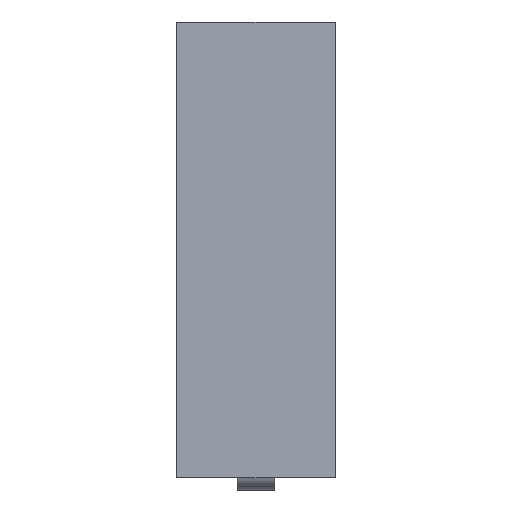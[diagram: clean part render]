
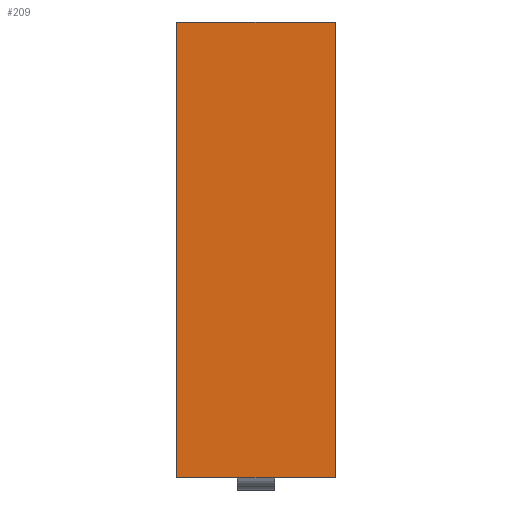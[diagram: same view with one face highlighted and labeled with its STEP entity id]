
A CAD part, left-side view. The second image highlights one B-rep face of the part: STEP entity #209.
In plain terms, the highlighted planar face has unit normal (-1, 0, 0).
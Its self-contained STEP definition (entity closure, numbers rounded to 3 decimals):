
#77 = EDGE_CURVE('',#78,#80,#82,.T.);
#78 = VERTEX_POINT('',#79);
#79 = CARTESIAN_POINT('',(-1.25,1.27,7.5));
#80 = VERTEX_POINT('',#81);
#81 = CARTESIAN_POINT('',(-1.25,-1.27,7.5));
#82 = LINE('',#83,#84);
#83 = CARTESIAN_POINT('',(-1.25,1.27,7.5));
#84 = VECTOR('',#85,1.);
#85 = DIRECTION('',(0.,-1.,0.));
#209 = ADVANCED_FACE('',(#210),#235,.F.);
#210 = FACE_BOUND('',#211,.F.);
#211 = EDGE_LOOP('',(#212,#220,#221,#229));
#212 = ORIENTED_EDGE('',*,*,#213,.T.);
#213 = EDGE_CURVE('',#214,#78,#216,.T.);
#214 = VERTEX_POINT('',#215);
#215 = CARTESIAN_POINT('',(-1.25,1.27,0.2));
#216 = LINE('',#217,#218);
#217 = CARTESIAN_POINT('',(-1.25,1.27,0.2));
#218 = VECTOR('',#219,1.);
#219 = DIRECTION('',(0.,0.,1.));
#220 = ORIENTED_EDGE('',*,*,#77,.T.);
#221 = ORIENTED_EDGE('',*,*,#222,.F.);
#222 = EDGE_CURVE('',#223,#80,#225,.T.);
#223 = VERTEX_POINT('',#224);
#224 = CARTESIAN_POINT('',(-1.25,-1.27,0.2));
#225 = LINE('',#226,#227);
#226 = CARTESIAN_POINT('',(-1.25,-1.27,0.2));
#227 = VECTOR('',#228,1.);
#228 = DIRECTION('',(0.,0.,1.));
#229 = ORIENTED_EDGE('',*,*,#230,.F.);
#230 = EDGE_CURVE('',#214,#223,#231,.T.);
#231 = LINE('',#232,#233);
#232 = CARTESIAN_POINT('',(-1.25,1.27,0.2));
#233 = VECTOR('',#234,1.);
#234 = DIRECTION('',(0.,-1.,0.));
#235 = PLANE('',#236);
#236 = AXIS2_PLACEMENT_3D('',#237,#238,#239);
#237 = CARTESIAN_POINT('',(-1.25,1.27,0.2));
#238 = DIRECTION('',(1.,0.,0.));
#239 = DIRECTION('',(0.,-1.,0.));
